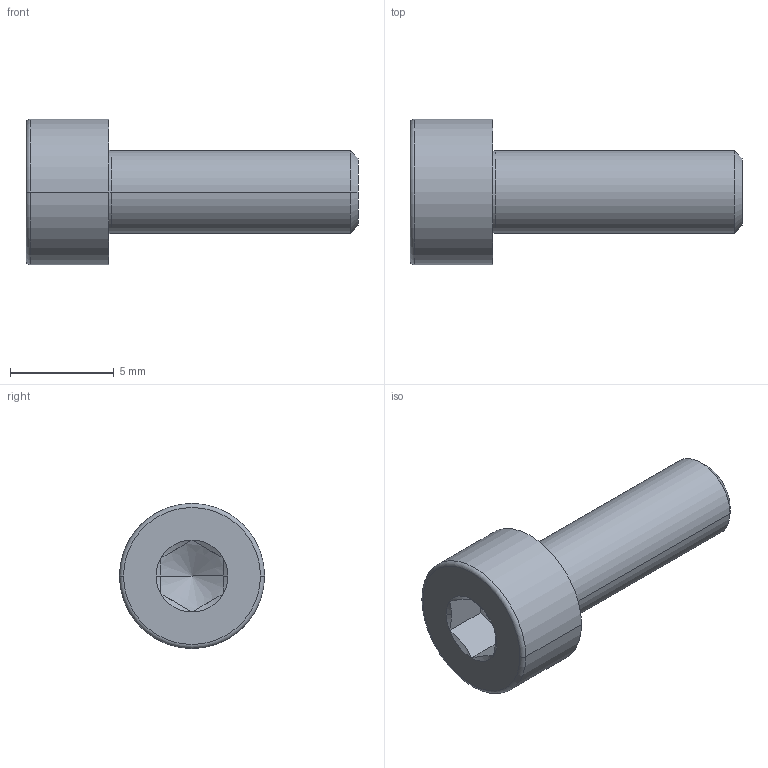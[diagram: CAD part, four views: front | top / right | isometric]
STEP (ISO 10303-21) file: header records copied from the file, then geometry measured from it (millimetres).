
FILE_DESCRIPTION(/* description */ ('(C) Elphel, Inc. 2012. Licensed under CERN OHL v.1.1 or later, see http://ohwr.org/cernohl'),/* implementation_level */ '2;1');
FILE_NAME(/* name */ '0353-97-48',/* time_stamp */ '2012-06-04T16:46:28-06:00',/* author */ (''),/* organization */ ('Elphel, Inc'),/* preprocessor_version */ 'ST-DEVELOPER v12',/* originating_system */ 'VariCAD 2012-1.04; kernel version (20100102)',/* authorisation */ '');
FILE_SCHEMA (('AUTOMOTIVE_DESIGN'));
Length unit declared in the file: millimetre
Products named in the file (1): Part
Bounding box: 16 x 7 x 7 mm (x, y, z)
Volume: 284.6 mm3; surface area: 584.8 mm2
Topology: 2 solids, 2 shells, 35 faces, 80 edges, 49 vertices
Faces by surface type: cone 12, plane 11, cylinder 10, torus 2
Entity records: 1309 total; most frequent: CARTESIAN_POINT 245, DIRECTION 170, ORIENTED_EDGE 156, EDGE_CURVE 78, AXIS2_PLACEMENT_3D 70, VERTEX_POINT 49, EDGE_LOOP 39, PRESENTATION_STYLE_ASSIGNMENT 37
